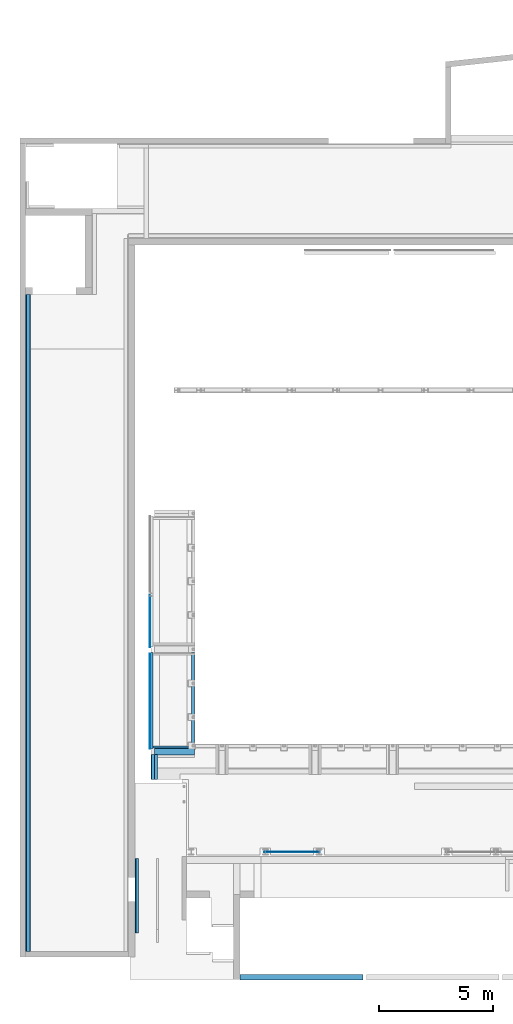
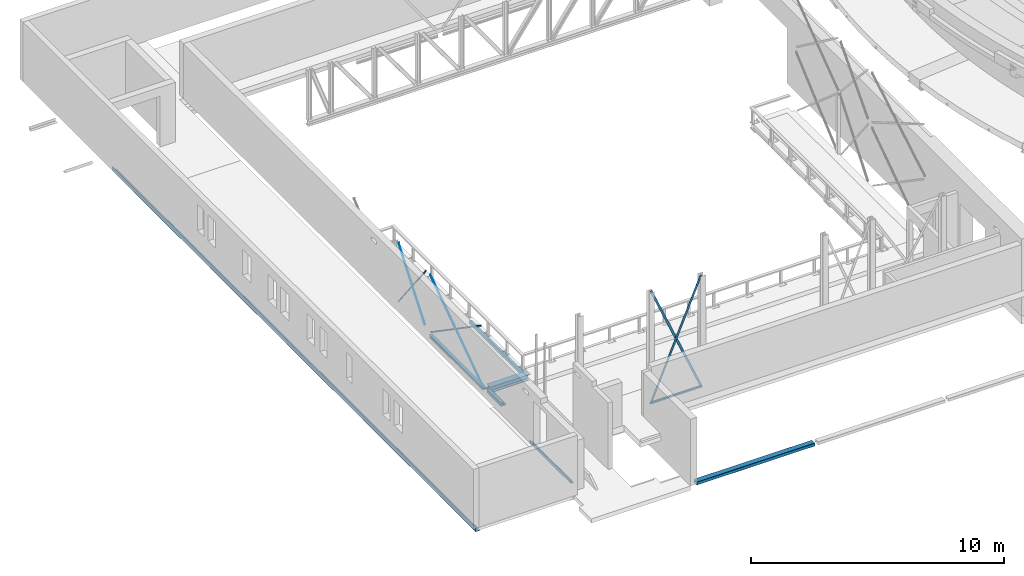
# One storey, part 14 of 68: 15 beams.
"""IFC2X3 building model written with IfcOpenShell, lengths in millimetres."""

from ifc_helpers import new_model, entity, si_unit, converted_unit, derived_unit, direction, frame, frame_2d, origin, place, context, subcontext, project, spatial, polyline, circle_curve, parameter, trimmed, segment, composite_curve, rectangle, outline, extrude, source, transform, mapped, material, material_list, type_object, type_shapes, element, save


model = new_model("IFC2X3")

# Units and contexts
model_context = context("Model", 3, precision=0.01, world=origin(), true_north=direction((6.12303176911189e-17, 1.0)))
body_context = subcontext(model_context, "Body", "Model", "MODEL_VIEW")
ifc_project = project(units=[si_unit("LENGTHUNIT", "METRE", prefix="MILLI"), si_unit("AREAUNIT", "SQUARE_METRE", prefix="MILLI"), si_unit("VOLUMEUNIT", "CUBIC_METRE"), converted_unit("PLANEANGLEUNIT", "DEGREE", entity("IfcRatioMeasure", 0.0174532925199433), si_unit("PLANEANGLEUNIT", "RADIAN"), dimensions=[0, 0, 0, 0, 0, 0, 0]), si_unit("MASSUNIT", "GRAM", prefix="KILO"), derived_unit("MASSDENSITYUNIT", [(si_unit("MASSUNIT", "GRAM", prefix="KILO"), 1), (si_unit("LENGTHUNIT", "METRE"), -3)]), derived_unit("MOMENTOFINERTIAUNIT", [(si_unit("LENGTHUNIT", "METRE"), 4)]), si_unit("TIMEUNIT", "SECOND"), si_unit("FREQUENCYUNIT", "HERTZ"), si_unit("THERMODYNAMICTEMPERATUREUNIT", "DEGREE_CELSIUS"), derived_unit("THERMALTRANSMITTANCEUNIT", [(si_unit("MASSUNIT", "GRAM", prefix="KILO"), 1), (si_unit("THERMODYNAMICTEMPERATUREUNIT", "KELVIN"), -1), (si_unit("TIMEUNIT", "SECOND"), -3)]), derived_unit("VOLUMETRICFLOWRATEUNIT", [(si_unit("LENGTHUNIT", "METRE"), 3), (si_unit("TIMEUNIT", "SECOND"), -1)]), si_unit("ELECTRICCURRENTUNIT", "AMPERE"), si_unit("ELECTRICVOLTAGEUNIT", "VOLT"), si_unit("POWERUNIT", "WATT"), si_unit("FORCEUNIT", "NEWTON", prefix="KILO"), si_unit("ILLUMINANCEUNIT", "LUX"), si_unit("LUMINOUSFLUXUNIT", "LUMEN"), si_unit("LUMINOUSINTENSITYUNIT", "CANDELA"), derived_unit("USERDEFINED", [(si_unit("MASSUNIT", "GRAM", prefix="KILO"), -1), (si_unit("LENGTHUNIT", "METRE"), -2), (si_unit("TIMEUNIT", "SECOND"), 3), (si_unit("LUMINOUSFLUXUNIT", "LUMEN"), 1)]), derived_unit("LINEARVELOCITYUNIT", [(si_unit("LENGTHUNIT", "METRE"), 1), (si_unit("TIMEUNIT", "SECOND"), -1)]), si_unit("PRESSUREUNIT", "PASCAL"), derived_unit("USERDEFINED", [(si_unit("LENGTHUNIT", "METRE"), -2), (si_unit("MASSUNIT", "GRAM", prefix="KILO"), 1), (si_unit("TIMEUNIT", "SECOND"), -2)]), derived_unit("LINEARFORCEUNIT", [(si_unit("MASSUNIT", "GRAM", prefix="KILO"), 1), (si_unit("LENGTHUNIT", "METRE"), 1), (si_unit("TIMEUNIT", "SECOND"), -2), (si_unit("LENGTHUNIT", "METRE"), -1)]), derived_unit("PLANARFORCEUNIT", [(si_unit("MASSUNIT", "GRAM", prefix="KILO"), 1), (si_unit("LENGTHUNIT", "METRE"), 1), (si_unit("TIMEUNIT", "SECOND"), -2), (si_unit("LENGTHUNIT", "METRE"), -2)])], contexts=[model_context])

# Site, building, storey
site_placement = place(None, origin())
site = spatial("IfcSite", under=ifc_project, at=site_placement, Name="Theater aan de Parade", CompositionType="ELEMENT")
building_placement = place(site_placement, origin())
building = spatial("IfcBuilding", under=site, at=building_placement, Name="Theater aan de Parade", CompositionType="ELEMENT")
storey_placement = place(building_placement, frame((0.0, 0.0, 8750.0)))
storey = spatial("IfcBuildingStorey", under=building, at=storey_placement, Name="02 tweede verdieping", CompositionType="ELEMENT", Elevation=8750.0)

# Beams
ifc_material_1 = material(Name="00_PBT_MAT_staal_S355")
beam_type_1 = type_object("IfcBeamType", Name="28_PBT_SF_staal_koker:S355_K150x150x10", PredefinedType="NOTDEFINED")
beam_1_placement = place(storey_placement, frame((17885.8570032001, 19208.2922985, 0.0), z_axis=(0.0, 0.0, 1.0), x_axis=(0.0, 1.0, 0.0)))
element("IfcBeam", 1, at=beam_1_placement, inside=storey, type_object=beam_type_1, material=ifc_material_1, Name="28_PBT_SF_staal_koker:S355_K150x150x10", ObjectType="28_PBT_SF_staal_koker:S355_K150x150x10", context=body_context, shape_type="SweptSolid", body=[
    extrude(outline(composite_curve([segment(trimmed(circle_curve(frame_2d((-60.0, -60.0), x_axis=(1.0, 0.0)), 15.0), [parameter(180.0)], [parameter(270.0)], True, "PARAMETER"), True, "CONTINUOUS"), segment(polyline([(-60.0, -75.0), (60.0, -75.0)]), True, "CONTINUOUS"), segment(trimmed(circle_curve(frame_2d((60.0, -60.0), x_axis=(1.0, 0.0)), 15.0), [parameter(270.0)], [parameter(0.0)], True, "PARAMETER"), True, "CONTINUOUS"), segment(polyline([(75.0, -60.0), (75.0, 60.0)]), True, "CONTINUOUS"), segment(trimmed(circle_curve(frame_2d((60.0, 60.0), x_axis=(1.0, 0.0)), 15.0), [parameter(3.56222124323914e-13)], [parameter(90.0000000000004)], True, "PARAMETER"), True, "CONTINUOUS"), segment(polyline([(60.0, 75.0), (-60.0, 75.0)]), True, "CONTINUOUS"), segment(trimmed(circle_curve(frame_2d((-60.0, 60.0), x_axis=(1.0, 0.0)), 15.0), [parameter(90.0)], [parameter(180.0)], True, "PARAMETER"), True, "CONTINUOUS"), segment(polyline([(-75.0, 60.0), (-75.0, -60.0)]), True, "CONTINUOUS")], self_intersect=False), holes=[composite_curve([segment(trimmed(circle_curve(frame_2d((55.0, 55.0), x_axis=(1.0, 0.0)), 10.0), [parameter(0.0)], [parameter(90.0000000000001)], True, "PARAMETER"), False, "CONTINUOUS"), segment(polyline([(65.0, 55.0), (65.0, -55.0)]), True, "CONTINUOUS"), segment(trimmed(circle_curve(frame_2d((55.0, -55.0), x_axis=(1.0, 0.0)), 10.0), [parameter(269.999999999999)], [parameter(360.0)], True, "PARAMETER"), False, "CONTINUOUS"), segment(polyline([(55.0, -65.0), (-55.0, -65.0)]), True, "CONTINUOUS"), segment(trimmed(circle_curve(frame_2d((-55.0, -55.0), x_axis=(1.0, 0.0)), 10.0), [parameter(180.0)], [parameter(270.0)], True, "PARAMETER"), False, "CONTINUOUS"), segment(polyline([(-65.0, -55.0), (-65.0, 55.0)]), True, "CONTINUOUS"), segment(trimmed(circle_curve(frame_2d((-55.0, 55.0), x_axis=(1.0, 0.0)), 10.0), [parameter(89.9999999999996)], [parameter(180.0)], True, "PARAMETER"), False, "CONTINUOUS"), segment(polyline([(-55.0, 65.0), (55.0, 65.0)]), True, "CONTINUOUS")], self_intersect=False)]), frame((0.0, 0.0, -225.0), z_axis=(1.0, 0.0, 0.0), x_axis=(0.0, 1.0, 0.0)), (0.0, 0.0, 1.0), 4219.99999999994),
])
beam_type_2 = type_object("IfcBeamType", Name="28_PBT_SF_staal_H-profiel:S355_HE140A", PredefinedType="NOTDEFINED")
beam_2_placement = place(storey_placement, frame((16053.8570032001, 19208.2922984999, 0.0), z_axis=(0.0, 0.0, 1.0), x_axis=(0.0, 1.0, 0.0)))
element("IfcBeam", 2, at=beam_2_placement, inside=storey, type_object=beam_type_2, material=ifc_material_1, Name="28_PBT_SF_staal_H-profiel:S355_HE140A", ObjectType="28_PBT_SF_staal_H-profiel:S355_HE140A", context=body_context, shape_type="SweptSolid", body=[
    extrude(outline(composite_curve([segment(polyline([(58.0, -70.0), (66.5, -70.0)]), True, "CONTINUOUS"), segment(polyline([(66.5, -70.0), (66.5, 70.0)]), True, "CONTINUOUS"), segment(polyline([(66.5, 70.0), (58.0, 70.0)]), True, "CONTINUOUS"), segment(polyline([(58.0, 70.0), (58.0, 14.750000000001)]), True, "CONTINUOUS"), segment(trimmed(circle_curve(frame_2d((46.0, 14.750000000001), x_axis=(1.0, 0.0)), 11.9999999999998), [parameter(270.0)], [parameter(0.0)], True, "PARAMETER"), False, "CONTINUOUS"), segment(polyline([(46.0, 2.75000000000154), (-46.0, 2.75000000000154)]), True, "CONTINUOUS"), segment(trimmed(circle_curve(frame_2d((-46.0, 14.750000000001), x_axis=(0.0, -1.0)), 11.9999999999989), [parameter(269.999999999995)], [parameter(0.0)], True, "PARAMETER"), False, "CONTINUOUS"), segment(polyline([(-58.0, 14.7500000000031), (-58.0, 70.0)]), True, "CONTINUOUS"), segment(polyline([(-58.0, 70.0), (-66.5, 70.0)]), True, "CONTINUOUS"), segment(polyline([(-66.5, 70.0), (-66.5, -70.0)]), True, "CONTINUOUS"), segment(polyline([(-66.5, -70.0), (-58.0, -70.0)]), True, "CONTINUOUS"), segment(polyline([(-58.0, -70.0), (-58.0, -14.7499999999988)]), True, "CONTINUOUS"), segment(trimmed(circle_curve(frame_2d((-46.0, -14.7499999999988), x_axis=(-1.0, 0.0)), 12.0000000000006), [parameter(270.0)], [parameter(0.0)], True, "PARAMETER"), False, "CONTINUOUS"), segment(polyline([(-46.0, -2.74999999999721), (46.0, -2.74999999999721)]), True, "CONTINUOUS"), segment(trimmed(circle_curve(frame_2d((46.0, -14.7499999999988), x_axis=(0.0, 1.0)), 11.999999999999), [parameter(269.999999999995)], [parameter(0.0)], True, "PARAMETER"), False, "CONTINUOUS"), segment(polyline([(58.0, -14.7499999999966), (58.0, -70.0)]), True, "CONTINUOUS")], self_intersect=False)), frame((0.0, 0.0, -233.500000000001), z_axis=(1.0, 0.0, 0.0), x_axis=(0.0, 0.0, -1.0)), (0.0, 0.0, 1.0), 4220.00000000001),
])
ifc_material_2 = material(Name="00_PBT_MAT_staal")
beam_type_3 = type_object("IfcBeamType", Name="28_PBT_SF_staal_strip:strip 6x100", PredefinedType="NOTDEFINED")
beam_3_placement = place(storey_placement, frame((21053.0429046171, 14676.2906195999, -1.77853624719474), z_axis=(0.920368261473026, 0.0, -0.391052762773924), x_axis=(0.391052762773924, 0.0, 0.920368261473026)))
element("IfcBeam", 3, at=beam_3_placement, inside=storey, type_object=beam_type_3, material=ifc_material_2, Name="28_PBT_SF_staal_strip:strip 6x100", ObjectType="28_PBT_SF_staal_strip:strip 6x100", context=body_context, shape_type="SweptSolid", body=[
    extrude(rectangle(XDim=100.000000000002, YDim=5.99999999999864, at=frame_2d((-2.0961010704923e-13, 0.0), x_axis=(1.0, 0.0))), frame((0.0, 3.0, 0.0), z_axis=(1.0, 0.0, 0.0), x_axis=(0.0, 0.0, -1.0)), (0.0, 0.0, 1.0), 5897.32312463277),
])
beam_4_placement = place(storey_placement, frame((23399.6599678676, 14676.2906196, 0.341366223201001), z_axis=(0.920287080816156, 0.0, 0.391243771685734), x_axis=(-0.391243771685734, 0.0, 0.920287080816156)))
element("IfcBeam", 4, at=beam_4_placement, inside=storey, type_object=beam_type_3, material=ifc_material_2, Name="28_PBT_SF_staal_strip:strip 6x100", ObjectType="28_PBT_SF_staal_strip:strip 6x100", context=body_context, shape_type="SweptSolid", body=[
    extrude(rectangle(XDim=100.000000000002, YDim=5.99999999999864, at=frame_2d((2.1316282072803e-13, 0.0), x_axis=(1.0, 0.0))), frame((0.0, -3.0, 0.0), z_axis=(1.0, 0.0, 0.0), x_axis=(0.0, 0.0, -1.0)), (0.0, 0.0, 1.0), 5934.98745390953),
])
beam_type_4 = type_object("IfcBeamType", Name="28_PBT_SF_staal_L-profiel:S355_L150x150x15", PredefinedType="NOTDEFINED")
beam_5_placement = place(storey_placement, frame((15396.3570025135, 11126.1427215, 0.0), z_axis=(0.0, 0.0, 1.0), x_axis=(0.0, 1.0, 0.0)))
element("IfcBeam", 5, at=beam_5_placement, inside=storey, type_object=beam_type_4, material=ifc_material_1, Name="28_PBT_SF_staal_L-profiel:S355_L150x150x15", ObjectType="28_PBT_SF_staal_L-profiel:S355_L150x150x15", context=body_context, shape_type="SweptSolid", body=[
    extrude(outline(composite_curve([segment(polyline([(49.6666666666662, -93.3333333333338), (56.6666666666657, -93.3333333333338)]), True, "CONTINUOUS"), segment(polyline([(56.6666666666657, -93.3333333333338), (56.6666666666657, 56.6666666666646)]), True, "CONTINUOUS"), segment(polyline([(56.6666666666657, 56.6666666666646), (-93.3333333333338, 56.6666666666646)]), True, "CONTINUOUS"), segment(polyline([(-93.3333333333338, 56.6666666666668), (-93.3333333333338, 49.6666666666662)]), True, "CONTINUOUS"), segment(trimmed(circle_curve(frame_2d((-85.3333333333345, 49.6666666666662), x_axis=(-1.0, 0.0)), 8.00000000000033), [parameter(0.0)], [parameter(90.0000000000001)], True, "PARAMETER"), True, "CONTINUOUS"), segment(polyline([(-85.3333333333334, 41.6666666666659), (25.6666666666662, 41.6666666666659)]), True, "CONTINUOUS"), segment(trimmed(circle_curve(frame_2d((25.6666666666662, 25.6666666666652), x_axis=(0.0, 1.0)), 15.9999999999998), [parameter(270.0)], [parameter(0.0)], True, "PARAMETER"), False, "CONTINUOUS"), segment(polyline([(41.6666666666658, 25.6666666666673), (41.6666666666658, -85.3333333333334)]), True, "CONTINUOUS"), segment(trimmed(circle_curve(frame_2d((49.6666666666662, -85.3333333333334), x_axis=(-1.0, 0.0)), 8.00000000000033), [parameter(0.0)], [parameter(90.0000000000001)], True, "PARAMETER"), True, "CONTINUOUS")], self_intersect=False)), frame((0.0, -14.1666666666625, 361.666666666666), z_axis=(1.0, 0.0, 0.0), x_axis=(0.0, 0.0, -1.0)), (0.0, 0.0, 1.0), 3267.92532629),
])
beam_type_5 = type_object("IfcBeamType", Name="28_PBT_SF_staal_koker:S355_K150x250x10", PredefinedType="NOTDEFINED")
beam_6_placement = place(storey_placement, frame((25335.0, 9197.0, 0.0), z_axis=(0.0, 0.0, 1.0), x_axis=(-1.0, 0.0, 0.0)))
element("IfcBeam", 6, at=beam_6_placement, inside=storey, type_object=beam_type_5, material=ifc_material_1, Name="28_PBT_SF_staal_koker:S355_K150x250x10", ObjectType="28_PBT_SF_staal_koker:S355_K150x250x10", context=body_context, shape_type="SweptSolid", body=[
    extrude(outline(composite_curve([segment(trimmed(circle_curve(frame_2d((-110.0, -60.0), x_axis=(1.0, 0.0)), 15.0), [parameter(180.0)], [parameter(270.0)], True, "PARAMETER"), True, "CONTINUOUS"), segment(polyline([(-110.0, -75.0), (110.0, -75.0)]), True, "CONTINUOUS"), segment(trimmed(circle_curve(frame_2d((110.0, -60.0), x_axis=(1.0, 0.0)), 15.0), [parameter(270.0)], [parameter(5.08888749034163e-14)], True, "PARAMETER"), True, "CONTINUOUS"), segment(polyline([(125.0, -60.0), (125.0, 60.0)]), True, "CONTINUOUS"), segment(trimmed(circle_curve(frame_2d((110.0, 60.0), x_axis=(1.0, 0.0)), 15.0), [parameter(3.56222124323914e-13)], [parameter(90.0000000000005)], True, "PARAMETER"), True, "CONTINUOUS"), segment(polyline([(110.0, 75.0), (-110.0, 75.0)]), True, "CONTINUOUS"), segment(trimmed(circle_curve(frame_2d((-110.0, 60.0), x_axis=(1.0, 0.0)), 15.0), [parameter(90.0)], [parameter(180.0)], True, "PARAMETER"), True, "CONTINUOUS"), segment(polyline([(-125.0, 60.0), (-125.0, -60.0)]), True, "CONTINUOUS")], self_intersect=False), holes=[composite_curve([segment(trimmed(circle_curve(frame_2d((105.0, 55.0), x_axis=(1.0, 0.0)), 10.0), [parameter(0.0)], [parameter(90.0000000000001)], True, "PARAMETER"), False, "CONTINUOUS"), segment(polyline([(115.0, 55.0), (115.0, -55.0)]), True, "CONTINUOUS"), segment(trimmed(circle_curve(frame_2d((105.0, -55.0), x_axis=(1.0, 0.0)), 10.0), [parameter(269.999999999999)], [parameter(360.0)], True, "PARAMETER"), False, "CONTINUOUS"), segment(polyline([(105.0, -65.0), (-105.0, -65.0)]), True, "CONTINUOUS"), segment(trimmed(circle_curve(frame_2d((-105.0, -55.0), x_axis=(1.0, 0.0)), 10.0), [parameter(180.0)], [parameter(270.0)], True, "PARAMETER"), False, "CONTINUOUS"), segment(polyline([(-115.0, -55.0), (-115.0, 55.0)]), True, "CONTINUOUS"), segment(trimmed(circle_curve(frame_2d((-105.0, 55.0), x_axis=(1.0, 0.0)), 10.0), [parameter(89.9999999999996)], [parameter(180.0)], True, "PARAMETER"), False, "CONTINUOUS"), segment(polyline([(-105.0, 65.0), (105.0, 65.0)]), True, "CONTINUOUS")], self_intersect=False)]), frame((0.0, 0.0, -65.0), z_axis=(1.0, 0.0, 0.0), x_axis=(0.0, 1.0, 0.0)), (0.0, 0.0, 1.0), 5381.14299748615),
])
beam_type_6 = type_object("IfcBeamType", Name="28_PBT_SF_staal_L-profiel:S355_L200x200x20", PredefinedType="NOTDEFINED")
beam_7_placement = place(storey_placement, frame((10610.9125537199, 39120.0, 0.0), z_axis=(0.0, 0.0, 1.0), x_axis=(0.0, -1.0, 0.0)))
element("IfcBeam", 7, at=beam_7_placement, inside=storey, type_object=beam_type_6, material=ifc_material_1, Name="28_PBT_SF_staal_L-profiel:S355_L200x200x20", ObjectType="28_PBT_SF_staal_L-profiel:S355_L200x200x20", context=body_context, shape_type="SweptSolid", body=[
    extrude(outline(composite_curve([segment(polyline([(-124.444444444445, -75.5555555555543), (75.5555555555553, -75.5555555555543)]), True, "CONTINUOUS"), segment(polyline([(75.5555555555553, -75.5555555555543), (75.5555555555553, 124.444444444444)]), True, "CONTINUOUS"), segment(polyline([(75.5555555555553, 124.444444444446), (64.5555555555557, 124.444444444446)]), True, "CONTINUOUS"), segment(trimmed(circle_curve(frame_2d((64.5555555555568, 115.444444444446), x_axis=(0.0, 1.0)), 9.0000000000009), [parameter(0.0)], [parameter(89.9999999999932)], True, "PARAMETER"), True, "CONTINUOUS"), segment(polyline([(55.5555555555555, 115.444444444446), (55.5555555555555, -37.5555555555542)]), True, "CONTINUOUS"), segment(trimmed(circle_curve(frame_2d((37.5555555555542, -37.5555555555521), x_axis=(1.0, 0.0)), 18.0000000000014), [parameter(270.00000000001)], [parameter(0.0)], True, "PARAMETER"), False, "CONTINUOUS"), segment(polyline([(37.5555555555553, -55.5555555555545), (-115.444444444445, -55.5555555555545)]), True, "CONTINUOUS"), segment(trimmed(circle_curve(frame_2d((-115.444444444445, -64.5555555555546), x_axis=(0.0, 1.0)), 9.00000000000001), [parameter(0.0)], [parameter(90.0000000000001)], True, "PARAMETER"), True, "CONTINUOUS"), segment(polyline([(-124.444444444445, -64.5555555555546), (-124.444444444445, -75.5555555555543)]), True, "CONTINUOUS")], self_intersect=False)), frame((0.0, 18.755555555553, 215.555555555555), z_axis=(1.0, 0.0, 0.0), x_axis=(0.0, 0.0, -1.0)), (0.0, 0.0, 1.0), 28800.6729253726),
])
beam_type_7 = type_object("IfcBeamType", Name="28_PBT_SF_staal_strip:strip 6x60", PredefinedType="NOTDEFINED")
beam_8_placement = place(storey_placement, frame((15996.3570032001, 19219.2459414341, -70.4925330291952), z_axis=(0.0, -0.566501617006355, 0.824060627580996), x_axis=(0.0, 0.824060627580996, 0.566501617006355)))
element("IfcBeam", 8, at=beam_8_placement, inside=storey, type_object=beam_type_7, material=ifc_material_2, Name="28_PBT_SF_staal_strip:strip 6x60", ObjectType="28_PBT_SF_staal_strip:strip 6x60", context=body_context, shape_type="SweptSolid", body=[
    extrude(rectangle(XDim=60.0000000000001, YDim=5.99999999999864, at=frame_2d((1.06226138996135e-12, 1.08291153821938e-12), x_axis=(1.0, 0.0))), frame((0.0, -3.0, 0.0), z_axis=(1.0, 0.0, 0.0), x_axis=(0.0, 0.0, -1.0)), (0.0, 0.0, 1.0), 5000.0),
])
beam_9_placement = place(storey_placement, frame((16001.3570032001, 19321.507831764, 2739.03522480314), z_axis=(0.0, 0.565689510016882, 0.824618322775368), x_axis=(0.0, 0.824618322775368, -0.565689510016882)))
element("IfcBeam", 9, at=beam_9_placement, inside=storey, type_object=beam_type_7, material=ifc_material_2, Name="28_PBT_SF_staal_strip:strip 6x60", ObjectType="28_PBT_SF_staal_strip:strip 6x60", context=body_context, shape_type="SweptSolid", body=[
    extrude(rectangle(XDim=60.0000000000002, YDim=5.99999999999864, at=frame_2d((0.0, 1.08291153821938e-12), x_axis=(1.0, 0.0))), frame((0.0, 3.0, 0.0), z_axis=(1.0, 0.0, 0.0), x_axis=(0.0, 0.0, -1.0)), (0.0, 0.0, 1.0), 4880.0),
])
beam_10_placement = place(storey_placement, frame((15996.3570032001, 23774.7158791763, 91.9961026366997), z_axis=(1.0, 0.0, 0.0), x_axis=(0.0, 0.612702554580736, 0.790313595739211)))
element("IfcBeam", 10, at=beam_10_placement, inside=storey, type_object=beam_type_7, material=ifc_material_2, Name="28_PBT_SF_staal_strip:strip 6x60", ObjectType="28_PBT_SF_staal_strip:strip 6x60", context=body_context, shape_type="SweptSolid", body=[
    extrude(rectangle(XDim=59.999999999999, YDim=5.99999999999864, at=frame_2d((0.0, 0.0), x_axis=(0.0, 1.0))), frame((0.0, 0.0, 3.0), z_axis=(1.0, 0.0, 0.0), x_axis=(0.0, 0.0, -1.0)), (0.0, 0.0, 1.0), 3400.0),
])
beam_11_placement = place(storey_placement, frame((16001.3570032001, 25899.3694737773, -91.8129642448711), z_axis=(1.0, 0.0, 0.0), x_axis=(0.0, -0.612702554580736, 0.790313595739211)))
element("IfcBeam", 11, at=beam_11_placement, inside=storey, type_object=beam_type_7, material=ifc_material_2, Name="28_PBT_SF_staal_strip:strip 6x60", ObjectType="28_PBT_SF_staal_strip:strip 6x60", context=body_context, shape_type="SweptSolid", body=[
    extrude(rectangle(XDim=59.999999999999, YDim=6.0000000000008, at=frame_2d((-1.08291153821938e-12, 0.0), x_axis=(0.0, 1.0))), frame((0.0, 0.0, -3.0), z_axis=(1.0, 0.0, 0.0), x_axis=(0.0, 0.0, -1.0)), (0.0, 0.0, 1.0), 3620.0),
])
ifc_material_list_1 = material_list([ifc_material_1, ifc_material_1])
ifc_material_list_2 = material_list([ifc_material_1, ifc_material_1])
beam_type_8 = type_object("IfcBeamType", Name="28_PBT_SF_staal_koker_met_ondergelaste_strip:S355_K150x150x10 + ondergelaste strip", PredefinedType="BEAM", material=ifc_material_list_2)
shared_shape_1 = source(origin(), body_context, "Body", "SweptSolid", [
    extrude(rectangle(XDim=10.0, YDim=275.0, at=frame_2d((-1.66666666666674, -20.833333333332), x_axis=(1.0, 0.0))), frame((-548.491925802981, 41.6666666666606, -78.3333333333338), z_axis=(1.0, 0.0, 0.0), x_axis=(0.0, 0.0, 1.0)), (0.0, 0.0, 1.0), 1096.98385160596),
    extrude(outline(composite_curve([segment(trimmed(circle_curve(frame_2d((-60.0, -60.0), x_axis=(1.0, 0.0)), 15.0), [parameter(180.0)], [parameter(270.0)], True, "PARAMETER"), True, "CONTINUOUS"), segment(polyline([(-60.0, -75.0), (60.0, -75.0)]), True, "CONTINUOUS"), segment(trimmed(circle_curve(frame_2d((60.0, -60.0), x_axis=(1.0, 0.0)), 15.0), [parameter(270.0)], [parameter(0.0)], True, "PARAMETER"), True, "CONTINUOUS"), segment(polyline([(75.0, -60.0), (75.0, 60.0)]), True, "CONTINUOUS"), segment(trimmed(circle_curve(frame_2d((60.0, 60.0), x_axis=(1.0, 0.0)), 15.0), [parameter(3.56222124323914e-13)], [parameter(90.0000000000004)], True, "PARAMETER"), True, "CONTINUOUS"), segment(polyline([(60.0, 75.0), (-60.0, 75.0)]), True, "CONTINUOUS"), segment(trimmed(circle_curve(frame_2d((-60.0, 60.0), x_axis=(1.0, 0.0)), 15.0), [parameter(90.0)], [parameter(180.0)], True, "PARAMETER"), True, "CONTINUOUS"), segment(polyline([(-75.0, 60.0), (-75.0, -60.0)]), True, "CONTINUOUS")], self_intersect=False), holes=[composite_curve([segment(trimmed(circle_curve(frame_2d((55.0, 55.0), x_axis=(1.0, 0.0)), 10.0), [parameter(0.0)], [parameter(90.0000000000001)], True, "PARAMETER"), False, "CONTINUOUS"), segment(polyline([(65.0, 55.0), (65.0, -55.0)]), True, "CONTINUOUS"), segment(trimmed(circle_curve(frame_2d((55.0, -55.0), x_axis=(1.0, 0.0)), 10.0), [parameter(269.999999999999)], [parameter(360.0)], True, "PARAMETER"), False, "CONTINUOUS"), segment(polyline([(55.0, -65.0), (-55.0, -65.0)]), True, "CONTINUOUS"), segment(trimmed(circle_curve(frame_2d((-55.0, -55.0), x_axis=(1.0, 0.0)), 10.0), [parameter(180.0)], [parameter(270.0)], True, "PARAMETER"), False, "CONTINUOUS"), segment(polyline([(-65.0, -55.0), (-65.0, 55.0)]), True, "CONTINUOUS"), segment(trimmed(circle_curve(frame_2d((-55.0, 55.0), x_axis=(1.0, 0.0)), 10.0), [parameter(89.9999999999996)], [parameter(180.0)], True, "PARAMETER"), False, "CONTINUOUS"), segment(polyline([(-55.0, 65.0), (55.0, 65.0)]), True, "CONTINUOUS")], self_intersect=False)]), frame((-548.491925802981, 0.0, 0.0), z_axis=(1.0, 0.0, 0.0), x_axis=(0.0, 1.0, 0.0)), (0.0, 0.0, 1.0), 1096.98385160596),
])
type_shapes(beam_type_8, [shared_shape_1])
beam_12_placement = place(storey_placement, frame((16128.8570032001, 18409.800372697, -225.0), z_axis=(0.0, 0.0, 1.0), x_axis=(0.0, -1.0, 0.0)))
element("IfcBeam", 12, at=beam_12_placement, inside=storey, type_object=beam_type_8, material=ifc_material_list_1, Name="28_PBT_SF_staal_koker_met_ondergelaste_strip:S355_K150x150x10 + ondergelaste strip", ObjectType="28_PBT_SF_staal_koker_met_ondergelaste_strip:S355_K150x150x10 + ondergelaste strip", context=body_context, shape_type="MappedRepresentation", body=[
    mapped(shared_shape_1, transform((0.0, 0.0, 0.0), scale=1.0)),
])
ifc_material_3 = material(Name="00_PBT_MAT_Lucht")
ifc_material_list_3 = material_list([ifc_material_1, ifc_material_3])
beam_type_9 = type_object("IfcBeamType", Name="28_PBT_SF_staal_H-profiel_met_ondergelaste_strip (void):S355_HE280B + ondergelaste strip d=12", PredefinedType="BEAM", material=ifc_material_list_3)
shared_shape_2 = source(origin(), body_context, "Body", "SweptSolid", [
    extrude(outline(composite_curve([segment(polyline([(122.0, -140.0), (140.0, -140.0)]), True, "CONTINUOUS"), segment(polyline([(140.0, -140.0), (140.0, 140.0)]), True, "CONTINUOUS"), segment(polyline([(140.0, 140.0), (122.0, 140.0)]), True, "CONTINUOUS"), segment(polyline([(122.0, 140.0), (122.0, 29.2500000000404)]), True, "CONTINUOUS"), segment(trimmed(circle_curve(frame_2d((98.0, 29.2500000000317), x_axis=(1.0, 0.0)), 24.0000000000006), [parameter(270.0)], [parameter(0.0)], True, "PARAMETER"), False, "CONTINUOUS"), segment(polyline([(98.0, 5.25000000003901), (-98.0, 5.24999999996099)]), True, "CONTINUOUS"), segment(trimmed(circle_curve(frame_2d((-98.0, 29.2499999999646), x_axis=(0.0, -1.0)), 24.0000000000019), [parameter(270.00000000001)], [parameter(0.0)], True, "PARAMETER"), False, "CONTINUOUS"), segment(polyline([(-122.0, 29.2499999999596), (-122.0, 140.0)]), True, "CONTINUOUS"), segment(polyline([(-122.0, 140.0), (-140.0, 140.0)]), True, "CONTINUOUS"), segment(polyline([(-140.0, 140.0), (-140.0, -140.0)]), True, "CONTINUOUS"), segment(polyline([(-140.0, -140.0), (-122.0, -140.0)]), True, "CONTINUOUS"), segment(polyline([(-122.0, -140.0), (-122.0, -29.2500000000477)]), True, "CONTINUOUS"), segment(trimmed(circle_curve(frame_2d((-98.0, -29.250000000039), x_axis=(-1.0, 0.0)), 24.0000000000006), [parameter(270.0)], [parameter(0.0)], True, "PARAMETER"), False, "CONTINUOUS"), segment(polyline([(-98.0, -5.25000000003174), (98.0, -5.24999999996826)]), True, "CONTINUOUS"), segment(trimmed(circle_curve(frame_2d((98.0, -29.2499999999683), x_axis=(0.0, 1.0)), 24.0000000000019), [parameter(270.00000000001)], [parameter(0.0)], True, "PARAMETER"), False, "CONTINUOUS"), segment(polyline([(122.0, -29.2499999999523), (122.0, -140.0)]), True, "CONTINUOUS")], self_intersect=False)), frame((16193.8570032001, 19068.2922985, 8540.0), z_axis=(1.0, 0.0, 0.0), x_axis=(0.0, 0.0, -1.0)), (0.0, 0.0, 1.0), 1766.99999999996),
    extrude(rectangle(XDim=12.0000000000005, YDim=400.0, at=frame_2d((-1.0831335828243e-12, -8.66862137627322e-12), x_axis=(1.0, 0.0))), frame((16194.8570032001, 19133.2922985, 8394.0), z_axis=(1.0, 0.0, 0.0), x_axis=(0.0, 0.0, -1.0)), (0.0, 0.0, 1.0), 1764.99999999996),
])
type_shapes(beam_type_9, [shared_shape_2])
beam_13_placement = place(storey_placement, frame((0.0, 0.0, -8750.0)))
element("IfcBeam", 13, at=beam_13_placement, inside=storey, type_object=beam_type_9, material=ifc_material_1, Name="28_PBT_SF_staal_H-profiel_met_ondergelaste_strip (void):S355_HE280B + ondergelaste strip d=12", ObjectType="28_PBT_SF_staal_H-profiel_met_ondergelaste_strip (void):S355_HE280B + ondergelaste strip d=12", context=body_context, shape_type="MappedRepresentation", body=[
    mapped(shared_shape_2, transform((0.0, 0.0, 0.0), scale=1.0)),
])
ifc_material_4 = material(Name="00_PBT_MAT_staal_S235")
beam_type_10 = type_object("IfcBeamType", Name="28_PBT_SF_staal_koker:S235_K50x90x5", PredefinedType="NOTDEFINED")
beam_14_placement = place(storey_placement, frame((16053.8570032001, 19288.2922985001, 0.0)))
element("IfcBeam", 14, at=beam_14_placement, inside=storey, type_object=beam_type_10, material=ifc_material_4, Name="28_PBT_SF_staal_koker:S235_K50x90x5", ObjectType="28_PBT_SF_staal_koker:S235_K50x90x5", context=body_context, shape_type="SweptSolid", body=[
    extrude(outline(composite_curve([segment(trimmed(circle_curve(frame_2d((-37.499999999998, -17.5000000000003), x_axis=(1.0, 0.0)), 7.5), [parameter(180.0)], [parameter(270.0)], True, "PARAMETER"), True, "CONTINUOUS"), segment(polyline([(-37.5000000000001, -25.0), (37.5000000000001, -25.0)]), True, "CONTINUOUS"), segment(trimmed(circle_curve(frame_2d((37.5000000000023, -17.5000000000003), x_axis=(1.0, 0.0)), 7.5), [parameter(270.0)], [parameter(0.0)], True, "PARAMETER"), True, "CONTINUOUS"), segment(polyline([(45.0, -17.5000000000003), (45.0, 17.4999999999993)]), True, "CONTINUOUS"), segment(trimmed(circle_curve(frame_2d((37.5000000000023, 17.4999999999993), x_axis=(1.0, 0.0)), 7.5), [parameter(3.56222124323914e-13)], [parameter(90.0000000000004)], True, "PARAMETER"), True, "CONTINUOUS"), segment(polyline([(37.5000000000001, 25.0), (-37.5000000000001, 25.0)]), True, "CONTINUOUS"), segment(trimmed(circle_curve(frame_2d((-37.499999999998, 17.4999999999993), x_axis=(1.0, 0.0)), 7.5), [parameter(90.0000000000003)], [parameter(180.0)], True, "PARAMETER"), True, "CONTINUOUS"), segment(polyline([(-45.0, 17.4999999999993), (-45.0, -17.5000000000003)]), True, "CONTINUOUS")], self_intersect=False), holes=[composite_curve([segment(trimmed(circle_curve(frame_2d((35.0, 15.0), x_axis=(1.0, 0.0)), 5.0), [parameter(360.0)], [parameter(90.0000000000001)], True, "PARAMETER"), False, "CONTINUOUS"), segment(polyline([(40.0, 15.0), (40.0, -15.0)]), True, "CONTINUOUS"), segment(trimmed(circle_curve(frame_2d((35.0, -15.0), x_axis=(1.0, 0.0)), 5.0), [parameter(269.999999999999)], [parameter(360.0)], True, "PARAMETER"), False, "CONTINUOUS"), segment(polyline([(35.0, -20.0), (-35.0, -20.0)]), True, "CONTINUOUS"), segment(trimmed(circle_curve(frame_2d((-35.0, -15.0), x_axis=(1.0, 0.0)), 5.0), [parameter(180.0)], [parameter(270.0)], True, "PARAMETER"), False, "CONTINUOUS"), segment(polyline([(-40.0, -15.0), (-40.0, 15.0)]), True, "CONTINUOUS"), segment(trimmed(circle_curve(frame_2d((-35.0, 15.0), x_axis=(1.0, 0.0)), 5.0), [parameter(90.0)], [parameter(180.0)], True, "PARAMETER"), False, "CONTINUOUS"), segment(polyline([(-35.0, 20.0), (35.0, 20.0)]), True, "CONTINUOUS")], self_intersect=False)]), frame((70.0, 0.0, -325.0), z_axis=(1.0, 0.0, 0.0), x_axis=(0.0, 1.0, 0.0)), (0.0, 0.0, 1.0), 1836.99999999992),
])
beam_type_11 = type_object("IfcBeamType", Name="28_PBT_SF_staal_koker:S355_K80x80x5", PredefinedType="NOTDEFINED")
beam_15_placement = place(storey_placement, frame((21058.8570032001, 14676.2906196, 0.0)))
element("IfcBeam", 15, at=beam_15_placement, inside=storey, type_object=beam_type_11, material=ifc_material_1, Name="28_PBT_SF_staal_koker:S355_K80x80x5", ObjectType="28_PBT_SF_staal_koker:S355_K80x80x5", context=body_context, shape_type="SweptSolid", body=[
    extrude(outline(composite_curve([segment(polyline([(-32.5000000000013, -40.0), (32.4999999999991, -40.0)]), True, "CONTINUOUS"), segment(trimmed(circle_curve(frame_2d((32.4999999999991, -32.5000000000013), x_axis=(0.0, 1.0)), 7.5), [parameter(180.0)], [parameter(270.0)], True, "PARAMETER"), True, "CONTINUOUS"), segment(polyline([(40.0, -32.4999999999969), (40.0, 32.5000000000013)]), True, "CONTINUOUS"), segment(trimmed(circle_curve(frame_2d((32.4999999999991, 32.4999999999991), x_axis=(0.0, 1.0)), 7.5), [parameter(270.0)], [parameter(360.0)], True, "PARAMETER"), True, "CONTINUOUS"), segment(polyline([(32.4999999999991, 40.0), (-32.5000000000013, 40.0)]), True, "CONTINUOUS"), segment(trimmed(circle_curve(frame_2d((-32.5000000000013, 32.4999999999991), x_axis=(0.0, 1.0)), 7.5), [parameter(0.0)], [parameter(90.0000000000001)], True, "PARAMETER"), True, "CONTINUOUS"), segment(polyline([(-40.0, 32.5000000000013), (-40.0, -32.4999999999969)]), True, "CONTINUOUS"), segment(trimmed(circle_curve(frame_2d((-32.5000000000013, -32.5000000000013), x_axis=(0.0, 1.0)), 7.5), [parameter(90.0)], [parameter(180.0)], True, "PARAMETER"), True, "CONTINUOUS")], self_intersect=False), holes=[composite_curve([segment(polyline([(35.0, 30.0), (35.0, -30.0)]), True, "CONTINUOUS"), segment(trimmed(circle_curve(frame_2d((30.0, -30.0), x_axis=(0.0, 1.0)), 5.0), [parameter(180.0)], [parameter(270.0)], True, "PARAMETER"), False, "CONTINUOUS"), segment(polyline([(30.0, -35.0), (-30.0, -35.0)]), True, "CONTINUOUS"), segment(trimmed(circle_curve(frame_2d((-30.0, -30.0), x_axis=(0.0, 1.0)), 5.0), [parameter(90.0)], [parameter(180.0)], True, "PARAMETER"), False, "CONTINUOUS"), segment(polyline([(-35.0, -30.0), (-35.0, 30.0)]), True, "CONTINUOUS"), segment(trimmed(circle_curve(frame_2d((-30.0, 30.0), x_axis=(0.0, 1.0)), 5.0), [parameter(4.07110999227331e-13)], [parameter(90.0000000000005)], True, "PARAMETER"), False, "CONTINUOUS"), segment(polyline([(-30.0, 35.0), (30.0, 35.0)]), True, "CONTINUOUS"), segment(trimmed(circle_curve(frame_2d((30.0, 30.0), x_axis=(0.0, 1.0)), 5.0), [parameter(270.0)], [parameter(5.08888749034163e-14)], True, "PARAMETER"), False, "CONTINUOUS")], self_intersect=False)]), frame((0.0, 0.0, 50.0), z_axis=(1.0, 0.0, 0.0), x_axis=(0.0, 0.0, 1.0)), (0.0, 0.0, 1.0), 2340.0),
])

save(model, "model.ifc")
